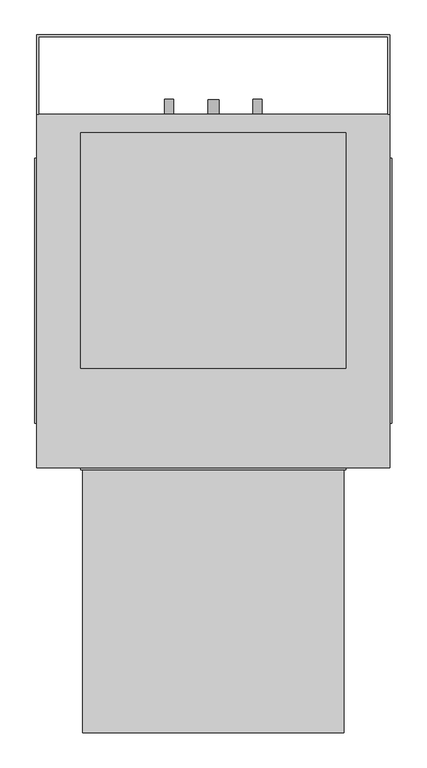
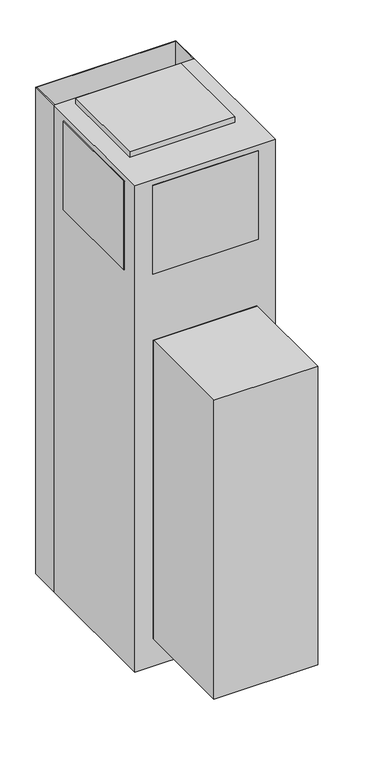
"""IFC4 building model written with IfcOpenShell, lengths in millimetres: proxy geometry, Exposed_Modular_Fan_Coil_Unit_-_MXY_-_IEC_-_2-Pipe_Cool-EHeat_-_NoRisers_2022 : Size 10 - 277v/60Hz/1Ph - 4 Row 8.0kW."""

import ifcopenshell
import ifcopenshell.guid

model = None  # the IFC model being written
_history = None  # IfcOwnerHistory: only IFC2X3 demands one
_inside = {}  # id of a spatial element -> (the spatial element, [elements in it])
_under = {}  # id of a project, library or spatial element -> (it, [spatial elements below it])
_declared = {}  # id of a project -> (the project, [libraries it declares])
_typed = {}  # id of a type object -> (the type object, [elements of that type])
_made_of = {}  # id of a material, layer set ... -> (it, [elements and type objects made of it])


def new_model(schema):
    """Start an empty IFC model of exactly this schema.

    Asked for "IFC4X3", IfcOpenShell would pick the latest addendum, in which some entities
    have other attributes; the version numbers below select the first issue.
    IFC2X3 requires an IfcOwnerHistory on every rooted entity: one is made here for all.
    """
    global model, _history
    if schema == "IFC4X3":
        model = ifcopenshell.file(schema_version=(4, 3, 0, 0))
    else:
        model = ifcopenshell.file(schema=schema)
    _inside.clear()
    _under.clear()
    _declared.clear()
    _typed.clear()
    _made_of.clear()
    _history = None
    if model.schema == "IFC2X3":
        org = make("IfcOrganization", Name="unknown")
        user = make(
            "IfcPersonAndOrganization",
            ThePerson=make("IfcPerson", FamilyName="unknown"),
            TheOrganization=org,
        )
        app = make(
            "IfcApplication",
            ApplicationDeveloper=org,
            Version="unknown",
            ApplicationFullName="unknown",
            ApplicationIdentifier="unknown",
        )
        _history = make(
            "IfcOwnerHistory",
            OwningUser=user,
            OwningApplication=app,
            ChangeAction="ADDED",
            CreationDate=0,
        )
    return model


def make(cls, **values):
    """One entity of the class cls with the attributes given. An attribute that is None is left unset."""
    return model.create_entity(
        cls, **{name: value for name, value in values.items() if value is not None}
    )


def rooted(cls, **values):
    """An entity with a GlobalId (a new one), such as an element, a storey or a relation."""
    return make(cls, GlobalId=ifcopenshell.guid.new(), OwnerHistory=_history, **values)


def si_unit(unit_type, name, prefix=None):
    """IfcSIUnit, for example si_unit("LENGTHUNIT", "METRE", prefix="MILLI")."""
    return make("IfcSIUnit", UnitType=unit_type, Prefix=prefix, Name=name)


def assignment(units):
    """IfcUnitAssignment: the units of a project."""
    return None if units is None else make("IfcUnitAssignment", Units=units)


def point(xyz):
    """IfcCartesianPoint."""
    return None if xyz is None else make("IfcCartesianPoint", Coordinates=xyz)


def direction(xyz):
    """IfcDirection."""
    return None if xyz is None else make("IfcDirection", DirectionRatios=xyz)


def frame(location, z_axis=None, x_axis=None):
    """IfcAxis2Placement3D, a coordinate frame: its origin and axes. An axis left out is left unset."""
    return make(
        "IfcAxis2Placement3D",
        Location=point(location),
        Axis=direction(z_axis),
        RefDirection=direction(x_axis),
    )


def frame_2d(location, x_axis=None):
    """IfcAxis2Placement2D, a coordinate frame in the plane: its origin and x axis."""
    return make(
        "IfcAxis2Placement2D", Location=point(location), RefDirection=direction(x_axis)
    )


def origin():
    """The frame at (0, 0, 0) with its axes left unset."""
    return frame((0.0, 0.0, 0.0))


def origin_with_axes():
    """The frame at (0, 0, 0) with the z axis (0, 0, 1) and the x axis (1, 0, 0) written out."""
    return frame((0.0, 0.0, 0.0), z_axis=(0.0, 0.0, 1.0), x_axis=(1.0, 0.0, 0.0))


def place(relative_to, where):
    """IfcLocalPlacement: puts the frame where relative to a parent placement (None: the world)."""
    return make(
        "IfcLocalPlacement", PlacementRelTo=relative_to, RelativePlacement=where
    )


def context(
    kind, dimensions, precision=None, world=None, true_north=None, identifier=None
):
    """IfcGeometricRepresentationContext, for example the 3D "Model" context."""
    return make(
        "IfcGeometricRepresentationContext",
        ContextIdentifier=identifier,
        ContextType=kind,
        CoordinateSpaceDimension=dimensions,
        Precision=precision,
        WorldCoordinateSystem=world,
        TrueNorth=true_north,
    )


def project(units=None, contexts=None):
    """IfcProject with its units and contexts."""
    return rooted(
        "IfcProject",
        Name="project",
        RepresentationContexts=contexts,
        UnitsInContext=assignment(units),
    )


def spatial(cls, under=None, at=None, **own):
    """A site, building, storey or space (cls), placed at a placement, below another one or the project."""
    s = rooted(cls, ObjectPlacement=at, **own)
    if under is not None:
        _under.setdefault(under.id(), (under, []))[1].append(s)
    return s


def polyline(points):
    """IfcPolyline through the points."""
    return make("IfcPolyline", Points=[point(p) for p in points])


def circle_curve(where, radius):
    """IfcCircle in the frame where."""
    return make("IfcCircle", Position=where, Radius=radius)


def trimmed(basis, trim1, trim2, sense, master):
    """IfcTrimmedCurve: the piece of a basis curve between two trims."""
    return make(
        "IfcTrimmedCurve",
        BasisCurve=basis,
        Trim1=trim1,
        Trim2=trim2,
        SenseAgreement=sense,
        MasterRepresentation=master,
    )


def segment(curve, same_sense, transition):
    """IfcCompositeCurveSegment."""
    return make(
        "IfcCompositeCurveSegment",
        Transition=transition,
        SameSense=same_sense,
        ParentCurve=curve,
    )


def composite_curve(segments, self_intersect=None):
    """IfcCompositeCurve: segments joined end to end."""
    return make("IfcCompositeCurve", Segments=segments, SelfIntersect=self_intersect)


def outline(outer, holes=None, kind="AREA"):
    """IfcArbitraryClosedProfileDef: a profile drawn as a closed curve; with holes, ...WithVoids."""
    if holes is None:
        return make("IfcArbitraryClosedProfileDef", ProfileType=kind, OuterCurve=outer)
    return make(
        "IfcArbitraryProfileDefWithVoids",
        ProfileType=kind,
        OuterCurve=outer,
        InnerCurves=holes,
    )


def extrude(swept, where, along, depth):
    """IfcExtrudedAreaSolid: the profile swept, set in the frame where, extruded along a direction by depth."""
    return make(
        "IfcExtrudedAreaSolid",
        SweptArea=swept,
        Position=where,
        ExtrudedDirection=direction(along),
        Depth=depth,
    )


def shape(context_of_items, identifier, shape_type, items):
    """IfcShapeRepresentation: the items that make up one representation, for example the "Body"."""
    return make(
        "IfcShapeRepresentation",
        ContextOfItems=context_of_items,
        RepresentationIdentifier=identifier,
        RepresentationType=shape_type,
        Items=items,
    )


def source(mapping_origin, context_of_items, identifier, shape_type, items):
    """IfcRepresentationMap: a shape defined once, which mapped items show again and again."""
    return make(
        "IfcRepresentationMap",
        MappingOrigin=mapping_origin,
        MappedRepresentation=shape(context_of_items, identifier, shape_type, items),
    )


def transform(
    local_origin,
    x_axis=None,
    y_axis=None,
    z_axis=None,
    scale=None,
    scale2=None,
    scale3=None,
    uniform=True,
):
    """IfcCartesianTransformationOperator3D, or its non-uniform kind. x_axis, y_axis, z_axis: its Axis1, 2, 3."""
    if uniform:
        return make(
            "IfcCartesianTransformationOperator3D",
            Axis1=direction(x_axis),
            Axis2=direction(y_axis),
            LocalOrigin=point(local_origin),
            Scale=scale,
            Axis3=direction(z_axis),
        )
    return make(
        "IfcCartesianTransformationOperator3DnonUniform",
        Axis1=direction(x_axis),
        Axis2=direction(y_axis),
        LocalOrigin=point(local_origin),
        Scale=scale,
        Axis3=direction(z_axis),
        Scale2=scale2,
        Scale3=scale3,
    )


def mapped(mapping_source, mapping_target):
    """IfcMappedItem: shows the shape of a source again, moved by a transform."""
    return make(
        "IfcMappedItem", MappingSource=mapping_source, MappingTarget=mapping_target
    )


def made_of(thing, what):
    """Note that an element or type object is made of a material, layer set ...; save() writes the relation."""
    if what is not None:
        _made_of.setdefault(what.id(), (what, []))[1].append(thing)
    return thing


def element(
    cls,
    number,
    at=None,
    inside=None,
    cuts=None,
    type_object=None,
    material=None,
    context=None,
    identifier="Body",
    shape_type=None,
    held_by="IfcProductDefinitionShape",
    body=None,
    shapes=None,
    **own,
):
    """One element of the class cls, such as IfcWall. Its Tag is "e" and its number.

    at: its placement. inside: the storey or other place that contains it. cuts: it is an
    opening in that element (IfcRelVoidsElement). A single representation is given by context,
    identifier, shape_type and body (its items); several are given by shapes. held_by: the class
    of the entity that holds the representations. save() writes the other relations.
    """
    e = rooted(cls, Tag="e%d" % number, ObjectPlacement=at, **own)
    if body is not None:
        shapes = [shape(context, identifier, shape_type, body)]
    if shapes is not None:
        e.Representation = make(held_by, Representations=shapes)
    if inside is not None:
        _inside.setdefault(inside.id(), (inside, []))[1].append(e)
    if cuts is not None:
        rooted(
            "IfcRelVoidsElement", RelatingBuildingElement=cuts, RelatedOpeningElement=e
        )
    if type_object is not None:
        _typed.setdefault(type_object.id(), (type_object, []))[1].append(e)
    return made_of(e, material)


def aggregate(whole, parts):
    """IfcRelAggregates: a whole, such as a stair, and the parts it consists of."""
    return rooted("IfcRelAggregates", RelatingObject=whole, RelatedObjects=parts)


def save(model, path):
    """Write the relations noted so far, then the file.

    IfcRelAggregates (storeys below a building ...), IfcRelContainedInSpatialStructure (elements
    in a storey), IfcRelDefinesByType, IfcRelAssociatesMaterial and IfcRelDeclares: one each for
    every whole, place, type object, material and project.
    """
    for whole, parts in _under.values():
        aggregate(whole, parts)
    for where, things in _inside.values():
        rooted(
            "IfcRelContainedInSpatialStructure",
            RelatedElements=things,
            RelatingStructure=where,
        )
    for kind, things in _typed.values():
        rooted("IfcRelDefinesByType", RelatedObjects=things, RelatingType=kind)
    for what, things in _made_of.values():
        rooted("IfcRelAssociatesMaterial", RelatedObjects=things, RelatingMaterial=what)
    for by, libraries in _declared.values():
        rooted("IfcRelDeclares", RelatingContext=by, RelatedDefinitions=libraries)
    model.write(path)


def mechanical_equipment_f8c11d62(model_context):
    return source(origin(), model_context, "Body", "SweptSolid", [
        extrude(outline(polyline([(1356.1480703, 566.8118862), (1346.2, 598.9852728), (1488.3709244, 598.9852728), (1465.3489183, 566.8118862), (1356.1480703, 566.8118862)])), frame((0.0, -371.475, 0.0), z_axis=(0.0, 1.0, 0.0), x_axis=(0.0, 0.0, 1.0)), (0.0, 0.0, 1.0), 3.175),
        extrude(outline(polyline([(1435.1473557, 605.7436058), (1431.9449632, 631.825), (1461.1738042, 631.825), (1469.2382193, 605.7436058), (1435.1473557, 605.7436058)])), frame((0.0, -371.475, 0.0), z_axis=(0.0, 1.0, 0.0), x_axis=(0.0, 0.0, 1.0)), (0.0, 0.0, 1.0), 3.175),
        extrude(outline(polyline([(1383.2838288, 631.825), (1379.6183279, 605.7436058), (1346.2, 605.7436058), (1354.8342372, 631.825), (1383.2838288, 631.825)])), frame((0.0, -371.475, 0.0), z_axis=(0.0, 1.0, 0.0), x_axis=(0.0, 0.0, 1.0)), (0.0, 0.0, 1.0), 3.175),
        extrude(outline(polyline([(1422.5989903, 631.825), (1424.8808166, 605.7436058), (1388.9432681, 605.7436058), (1391.6845331, 631.825), (1422.5989903, 631.825)])), frame((0.0, -371.475, 0.0), z_axis=(0.0, 1.0, 0.0), x_axis=(0.0, 0.0, 1.0)), (0.0, 0.0, 1.0), 3.175),
        extrude(outline(polyline([(682.625, -368.3), (682.625, -822.325), (231.775, -822.325), (231.775, -368.3), (682.625, -368.3)])), frame((0.0, 0.0, 127.0), z_axis=(0.0, 0.0, 1.0), x_axis=(1.0, 0.0, 0.0)), (0.0, 0.0, 1.0), 1371.6),
        extrude(outline(polyline([(152.4, 381.0), (762.0, 381.0), (762.0, 244.475), (758.825, 244.475), (758.825, 377.825), (155.575, 377.825), (155.575, 244.475), (152.4, 244.475), (152.4, 381.0)])), origin_with_axes(), (0.0, 0.0, 1.0), 2235.2),
        extrude(outline(composite_curve([segment(trimmed(circle_curve(frame_2d((990.6, 533.4)), 7.9375), [point((990.6, 541.3375))], [point((990.6, 525.4625))], False, "CARTESIAN"), True, "CONTINUOUS"), segment(trimmed(circle_curve(frame_2d((990.6, 533.4)), 7.9375), [point((990.6, 525.4625))], [point((990.6, 541.3375))], False, "CARTESIAN"), True, "CONTINUOUS")], self_intersect=False)), frame((0.0, 244.475, 0.0), z_axis=(0.0, 1.0, 0.0), x_axis=(0.0, 0.0, 1.0)), (0.0, 0.0, 1.0), 25.4),
        extrude(outline(composite_curve([segment(trimmed(circle_curve(frame_2d((990.6, 381.0)), 7.9375), [point((990.6, 388.9375))], [point((990.6, 373.0625))], False, "CARTESIAN"), True, "CONTINUOUS"), segment(trimmed(circle_curve(frame_2d((990.6, 381.0)), 7.9375), [point((990.6, 373.0625))], [point((990.6, 388.9375))], False, "CARTESIAN"), True, "CONTINUOUS")], self_intersect=False)), frame((0.0, 244.475, 0.0), z_axis=(0.0, 1.0, 0.0), x_axis=(0.0, 0.0, 1.0)), (0.0, 0.0, 1.0), 25.4),
        extrude(outline(composite_curve([segment(trimmed(circle_curve(frame_2d((127.0, 457.2)), 9.525), [point((127.0, 466.725))], [point((127.0, 447.675))], False, "CARTESIAN"), True, "CONTINUOUS"), segment(trimmed(circle_curve(frame_2d((127.0, 457.2)), 9.525), [point((127.0, 447.675))], [point((127.0, 466.725))], False, "CARTESIAN"), True, "CONTINUOUS")], self_intersect=False)), frame((0.0, 244.475, 0.0), z_axis=(0.0, 1.0, 0.0), x_axis=(0.0, 0.0, 1.0)), (0.0, 0.0, 1.0), 25.4),
        extrude(outline(polyline([(682.625, -368.3), (231.775, -368.3), (231.775, -365.125), (682.625, -365.125), (682.625, -368.3)])), frame((0.0, 0.0, 127.0), z_axis=(0.0, 0.0, 1.0), x_axis=(1.0, 0.0, 0.0)), (0.0, 0.0, 1.0), 1371.6),
        extrude(outline(polyline([(765.175, 168.275), (765.175, -288.925), (762.0, -288.925), (762.0, 168.275), (765.175, 168.275)])), frame((0.0, 0.0, 1803.4), z_axis=(0.0, 0.0, 1.0), x_axis=(1.0, 0.0, 0.0)), (0.0, 0.0, 1.0), 406.4),
        extrude(outline(polyline([(149.225, -288.925), (149.225, 168.275), (152.4, 168.275), (152.4, -288.925), (149.225, -288.925)])), frame((0.0, 0.0, 1803.4), z_axis=(0.0, 0.0, 1.0), x_axis=(1.0, 0.0, 0.0)), (0.0, 0.0, 1.0), 406.4),
        extrude(outline(polyline([(685.8, -368.3), (228.6, -368.3), (228.6, -365.125), (685.8, -365.125), (685.8, -368.3)])), frame((0.0, 0.0, 1803.4), z_axis=(0.0, 0.0, 1.0), x_axis=(1.0, 0.0, 0.0)), (0.0, 0.0, 1.0), 406.4),
        extrude(outline(polyline([(685.8, 212.725), (685.8, -193.675), (228.6, -193.675), (228.6, 212.725), (685.8, 212.725)])), frame((0.0, 0.0, 2235.2), z_axis=(0.0, 0.0, 1.0), x_axis=(1.0, 0.0, 0.0)), (0.0, 0.0, 1.0), 25.4),
        extrude(outline(polyline([(762.0, 244.475), (762.0, -365.125), (152.4, -365.125), (152.4, 244.475), (762.0, 244.475)])), origin_with_axes(), (0.0, 0.0, 1.0), 2235.2),
    ])


if __name__ == "__main__":
    model = new_model("IFC4")
    model_context = context("Model", 3, world=origin())
    ifc_project = project(units=[si_unit("LENGTHUNIT", "METRE", prefix="MILLI")], contexts=[model_context])
    site = spatial("IfcSite", under=ifc_project)
    building = spatial("IfcBuilding", under=site)
    placement = place(None, origin())
    mechanical_equipment_shape = mechanical_equipment_f8c11d62(model_context)
    element("IfcBuildingElementProxy", 1, Name="Exposed_Modular_Fan_Coil_Unit_-_MXY_-_IEC_-_2-Pipe_Cool-EHeat_-_NoRisers_2022 : Size 10 - 277v/60Hz/1Ph - 4 Row 8.0kW", ObjectType="Exposed_Modular_Fan_Coil_Unit_-_MXY_-_IEC_-_2-Pipe_Cool-EHeat_-_NoRisers_2022 : Size 10 - 277v/60Hz/1Ph - 4 Row 8.0kW", at=placement, inside=building, context=model_context, shape_type="MappedRepresentation", body=[
        mapped(mechanical_equipment_shape, transform((0.0, 0.0, 0.0), x_axis=(1.0, 0.0, 0.0), y_axis=(0.0, 1.0, 0.0), z_axis=(0.0, 0.0, 1.0))),
    ])
    save(model, "model.ifc")
